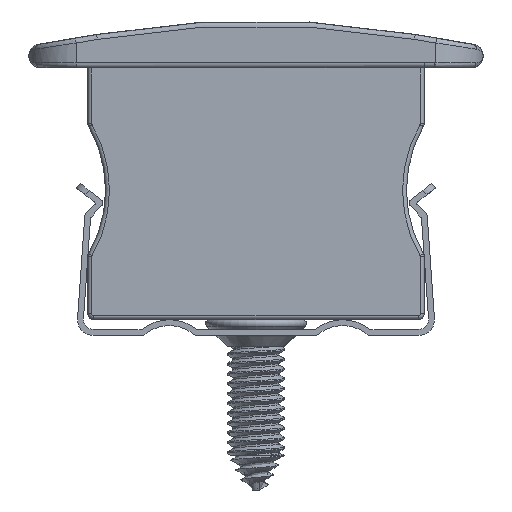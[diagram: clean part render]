
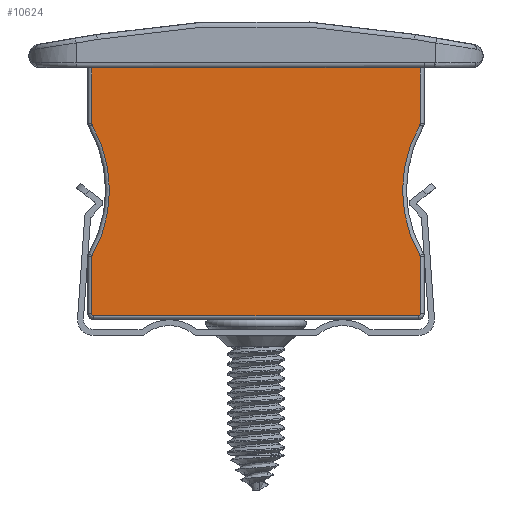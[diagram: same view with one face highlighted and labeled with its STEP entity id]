
A CAD part, front view. The second image highlights one B-rep face of the part: STEP entity #10624.
In plain terms, the highlighted planar face has unit normal (0, -1, 0) as drawn and (0, 0, 1) by its records, which use the part's own axes.
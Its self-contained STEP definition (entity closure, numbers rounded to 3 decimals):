
#375=PLANE('',#11491);
#768=FACE_OUTER_BOUND('',#1435,.T.);
#1435=EDGE_LOOP('',(#7388,#7389,#7390,#7391,#7392,#7393,#7394,#7395,#7396,
#7397,#7398,#7399,#7400,#7401));
#2037=LINE('',#15997,#2926);
#2039=LINE('',#16039,#2928);
#2041=LINE('',#16059,#2930);
#2043=LINE('',#16079,#2932);
#2045=LINE('',#16119,#2934);
#2132=LINE('',#16944,#3021);
#2926=VECTOR('',#12603,10.);
#2928=VECTOR('',#12631,10.);
#2930=VECTOR('',#12643,10.);
#2932=VECTOR('',#12655,10.);
#2934=VECTOR('',#12681,10.);
#3021=VECTOR('',#12990,10.);
#3818=CIRCLE('',#11348,0.1);
#3821=CIRCLE('',#11352,6.7);
#3824=CIRCLE('',#11355,0.1);
#3828=CIRCLE('',#11360,0.1);
#3832=CIRCLE('',#11365,0.1);
#3836=CIRCLE('',#11370,0.1);
#3839=CIRCLE('',#11374,6.7);
#3842=CIRCLE('',#11377,0.1);
#4420=VERTEX_POINT('',#15994);
#4421=VERTEX_POINT('',#15996);
#4424=VERTEX_POINT('',#16011);
#4426=VERTEX_POINT('',#16017);
#4428=VERTEX_POINT('',#16031);
#4430=VERTEX_POINT('',#16037);
#4432=VERTEX_POINT('',#16051);
#4434=VERTEX_POINT('',#16057);
#4436=VERTEX_POINT('',#16071);
#4438=VERTEX_POINT('',#16077);
#4440=VERTEX_POINT('',#16091);
#4442=VERTEX_POINT('',#16097);
#4444=VERTEX_POINT('',#16111);
#4445=VERTEX_POINT('',#16116);
#5458=EDGE_CURVE('',#4420,#4421,#2037,.T.);
#5462=EDGE_CURVE('',#4424,#4420,#3818,.T.);
#5465=EDGE_CURVE('',#4426,#4424,#3821,.T.);
#5468=EDGE_CURVE('',#4428,#4426,#3824,.T.);
#5471=EDGE_CURVE('',#4430,#4428,#2039,.T.);
#5474=EDGE_CURVE('',#4432,#4430,#3828,.T.);
#5477=EDGE_CURVE('',#4434,#4432,#2041,.T.);
#5480=EDGE_CURVE('',#4436,#4434,#3832,.T.);
#5483=EDGE_CURVE('',#4438,#4436,#2043,.T.);
#5486=EDGE_CURVE('',#4440,#4438,#3836,.T.);
#5489=EDGE_CURVE('',#4442,#4440,#3839,.T.);
#5492=EDGE_CURVE('',#4444,#4442,#3842,.T.);
#5495=EDGE_CURVE('',#4445,#4444,#2045,.T.);
#5649=EDGE_CURVE('',#4445,#4421,#2132,.T.);
#7388=ORIENTED_EDGE('',*,*,#5495,.F.);
#7389=ORIENTED_EDGE('',*,*,#5649,.T.);
#7390=ORIENTED_EDGE('',*,*,#5458,.F.);
#7391=ORIENTED_EDGE('',*,*,#5462,.F.);
#7392=ORIENTED_EDGE('',*,*,#5465,.F.);
#7393=ORIENTED_EDGE('',*,*,#5468,.F.);
#7394=ORIENTED_EDGE('',*,*,#5471,.F.);
#7395=ORIENTED_EDGE('',*,*,#5474,.F.);
#7396=ORIENTED_EDGE('',*,*,#5477,.F.);
#7397=ORIENTED_EDGE('',*,*,#5480,.F.);
#7398=ORIENTED_EDGE('',*,*,#5483,.F.);
#7399=ORIENTED_EDGE('',*,*,#5486,.F.);
#7400=ORIENTED_EDGE('',*,*,#5489,.F.);
#7401=ORIENTED_EDGE('',*,*,#5492,.F.);
#10624=ADVANCED_FACE('',(#768),#375,.T.);
#11348=AXIS2_PLACEMENT_3D('',#16013,#12609,#12610);
#11352=AXIS2_PLACEMENT_3D('',#16019,#12617,#12618);
#11355=AXIS2_PLACEMENT_3D('',#16033,#12623,#12624);
#11360=AXIS2_PLACEMENT_3D('',#16053,#12635,#12636);
#11365=AXIS2_PLACEMENT_3D('',#16073,#12647,#12648);
#11370=AXIS2_PLACEMENT_3D('',#16093,#12659,#12660);
#11374=AXIS2_PLACEMENT_3D('',#16099,#12667,#12668);
#11377=AXIS2_PLACEMENT_3D('',#16113,#12673,#12674);
#11491=AXIS2_PLACEMENT_3D('',#16943,#12988,#12989);
#12603=DIRECTION('',(0.,-1.,0.));
#12609=DIRECTION('center_axis',(0.,0.,-1.));
#12610=DIRECTION('ref_axis',(0.966,0.257,0.));
#12617=DIRECTION('center_axis',(0.,0.,1.));
#12618=DIRECTION('ref_axis',(-1.,0.,0.));
#12623=DIRECTION('center_axis',(0.,0.,-1.));
#12624=DIRECTION('ref_axis',(0.966,-0.257,0.));
#12631=DIRECTION('',(0.,-1.,0.));
#12635=DIRECTION('center_axis',(0.,0.,-1.));
#12636=DIRECTION('ref_axis',(0.707,0.707,0.));
#12643=DIRECTION('',(1.,0.,0.));
#12647=DIRECTION('center_axis',(0.,0.,-1.));
#12648=DIRECTION('ref_axis',(-0.707,0.707,0.));
#12655=DIRECTION('',(0.,1.,0.));
#12659=DIRECTION('center_axis',(0.,0.,-1.));
#12660=DIRECTION('ref_axis',(-0.966,-0.257,0.));
#12667=DIRECTION('center_axis',(0.,0.,1.));
#12668=DIRECTION('ref_axis',(1.,0.,0.));
#12673=DIRECTION('center_axis',(0.,0.,-1.));
#12674=DIRECTION('ref_axis',(-0.966,0.257,0.));
#12681=DIRECTION('',(0.,1.,0.));
#12988=DIRECTION('center_axis',(0.,0.,1.));
#12989=DIRECTION('ref_axis',(1.,0.,0.));
#12990=DIRECTION('',(1.,0.,0.));
#15994=CARTESIAN_POINT('',(8.35,-3.891,2.5));
#15996=CARTESIAN_POINT('',(8.35,-6.729,2.5));
#15997=CARTESIAN_POINT('',(8.35,-4.253,2.5));
#16011=CARTESIAN_POINT('',(8.337,-3.841,2.5));
#16013=CARTESIAN_POINT('Origin',(8.25,-3.891,2.5));
#16017=CARTESIAN_POINT('',(8.337,2.821,2.5));
#16019=CARTESIAN_POINT('Origin',(14.15,-0.51,2.5));
#16031=CARTESIAN_POINT('',(8.35,2.871,2.5));
#16033=CARTESIAN_POINT('Origin',(8.25,2.871,2.5));
#16037=CARTESIAN_POINT('',(8.35,5.771,2.5));
#16039=CARTESIAN_POINT('',(8.35,0.547,2.5));
#16051=CARTESIAN_POINT('',(8.25,5.871,2.5));
#16053=CARTESIAN_POINT('Origin',(8.25,5.771,2.5));
#16057=CARTESIAN_POINT('',(-8.25,5.871,2.5));
#16059=CARTESIAN_POINT('',(4.125,5.871,2.5));
#16071=CARTESIAN_POINT('',(-8.35,5.771,2.5));
#16073=CARTESIAN_POINT('Origin',(-8.25,5.771,2.5));
#16077=CARTESIAN_POINT('',(-8.35,2.871,2.5));
#16079=CARTESIAN_POINT('',(-8.35,1.997,2.5));
#16091=CARTESIAN_POINT('',(-8.337,2.821,2.5));
#16093=CARTESIAN_POINT('Origin',(-8.25,2.871,2.5));
#16097=CARTESIAN_POINT('',(-8.337,-3.841,2.5));
#16099=CARTESIAN_POINT('Origin',(-14.15,-0.51,2.5));
#16111=CARTESIAN_POINT('',(-8.35,-3.891,2.5));
#16113=CARTESIAN_POINT('Origin',(-8.25,-3.891,2.5));
#16116=CARTESIAN_POINT('',(-8.35,-6.729,2.5));
#16119=CARTESIAN_POINT('',(-8.35,-2.834,2.5));
#16943=CARTESIAN_POINT('Origin',(0.,-1.777,
2.5));
#16944=CARTESIAN_POINT('',(5.475,-6.729,2.5));
